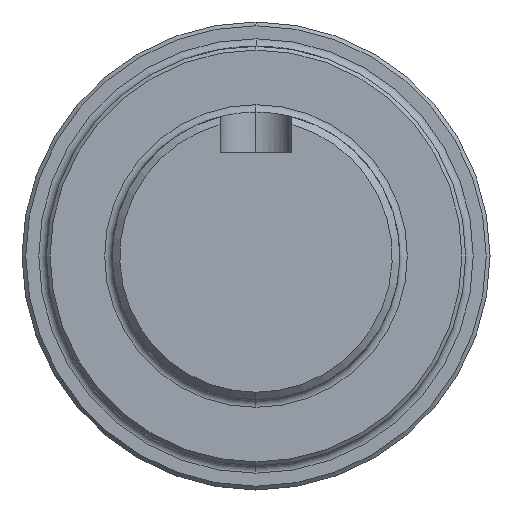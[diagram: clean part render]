
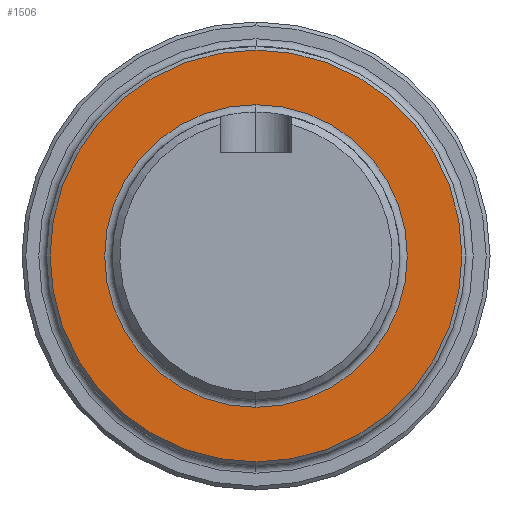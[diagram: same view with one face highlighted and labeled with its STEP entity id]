
A CAD part, left-side view. The second image highlights one B-rep face of the part: STEP entity #1506.
In plain terms, the highlighted planar face has unit normal (-1, 0, 0).
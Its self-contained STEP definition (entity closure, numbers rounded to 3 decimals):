
#82 = ORIENTED_EDGE ( 'NONE', *, *, #630, .T. ) ;
#101 = ORIENTED_EDGE ( 'NONE', *, *, #620, .T. ) ;
#102 = ORIENTED_EDGE ( 'NONE', *, *, #769, .T. ) ;
#127 = CIRCLE ( 'NONE', #669, 20.05 ) ;
#137 = CIRCLE ( 'NONE', #676, 27.28 ) ;
#226 = CIRCLE ( 'NONE', #702, 20.05 ) ;
#227 = CIRCLE ( 'NONE', #703, 27.28 ) ;
#366 = CARTESIAN_POINT ( 'NONE',  ( -118.45, 0., 0. ) ) ;
#367 = DIRECTION ( 'NONE',  ( 1., 0., 0. ) ) ;
#368 = DIRECTION ( 'NONE',  ( 0., 0., 1. ) ) ;
#371 = CARTESIAN_POINT ( 'NONE',  ( -118.45, 0., 0. ) ) ;
#372 = DIRECTION ( 'NONE',  ( -1., 0., 0. ) ) ;
#373 = DIRECTION ( 'NONE',  ( 0., 0., 1. ) ) ;
#389 = CARTESIAN_POINT ( 'NONE',  ( -118.45, 0., -27.28 ) ) ;
#550 = CARTESIAN_POINT ( 'NONE',  ( -118.45, 0., 0. ) ) ;
#551 = DIRECTION ( 'NONE',  ( 1., 0., 0. ) ) ;
#552 = DIRECTION ( 'NONE',  ( 0., 0., 1. ) ) ;
#620 = EDGE_CURVE ( 'NONE', #1307, #1294, #127, .T. ) ;
#630 = EDGE_CURVE ( 'NONE', #1290, #1258, #137, .T. ) ;
#669 = AXIS2_PLACEMENT_3D ( 'NONE', #550, #551, #552 ) ;
#676 = AXIS2_PLACEMENT_3D ( 'NONE', #1769, #1770, #1771 ) ;
#702 = AXIS2_PLACEMENT_3D ( 'NONE', #366, #367, #368 ) ;
#703 = AXIS2_PLACEMENT_3D ( 'NONE', #371, #372, #373 ) ;
#769 = EDGE_CURVE ( 'NONE', #1294, #1307, #226, .T. ) ;
#770 = EDGE_CURVE ( 'NONE', #1258, #1290, #227, .T. ) ;
#824 = FACE_BOUND ( 'NONE', #1232, .T. ) ;
#829 = FACE_OUTER_BOUND ( 'NONE', #1661, .T. ) ;
#958 = CARTESIAN_POINT ( 'NONE',  ( -118.45, 0., 27.28 ) ) ;
#962 = CARTESIAN_POINT ( 'NONE',  ( -118.45, 0., -20.05 ) ) ;
#975 = CARTESIAN_POINT ( 'NONE',  ( -118.45, 0., 20.05 ) ) ;
#1074 = CARTESIAN_POINT ( 'NONE',  ( -118.45, 0., 0. ) ) ;
#1077 = PLANE ( 'NONE',  #1387 ) ;
#1079 = DIRECTION ( 'NONE',  ( -1., 0., 0. ) ) ;
#1080 = DIRECTION ( 'NONE',  ( 0., 0., 1. ) ) ;
#1215 = ORIENTED_EDGE ( 'NONE', *, *, #770, .T. ) ;
#1232 = EDGE_LOOP ( 'NONE', ( #101, #102 ) ) ;
#1258 = VERTEX_POINT ( 'NONE', #389 ) ;
#1290 = VERTEX_POINT ( 'NONE', #958 ) ;
#1294 = VERTEX_POINT ( 'NONE', #962 ) ;
#1307 = VERTEX_POINT ( 'NONE', #975 ) ;
#1387 = AXIS2_PLACEMENT_3D ( 'NONE', #1074, #1079, #1080 ) ;
#1506 = ADVANCED_FACE ( 'NONE', ( #824, #829 ), #1077, .T. ) ;
#1661 = EDGE_LOOP ( 'NONE', ( #1215, #82 ) ) ;
#1769 = CARTESIAN_POINT ( 'NONE',  ( -118.45, 0., 0. ) ) ;
#1770 = DIRECTION ( 'NONE',  ( -1., 0., 0. ) ) ;
#1771 = DIRECTION ( 'NONE',  ( 0., 0., 1. ) ) ;
